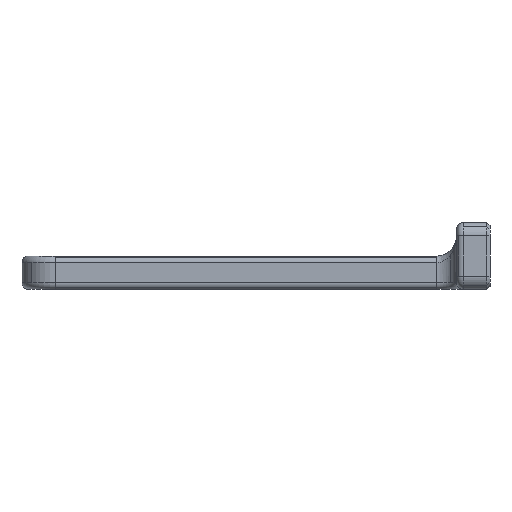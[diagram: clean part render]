
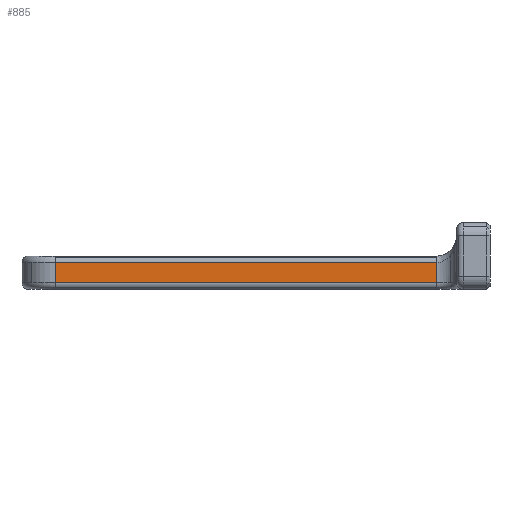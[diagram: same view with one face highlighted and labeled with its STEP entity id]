
A CAD part, front view. The second image highlights one B-rep face of the part: STEP entity #885.
In plain terms, the highlighted planar face has unit normal (0, -1, 0).
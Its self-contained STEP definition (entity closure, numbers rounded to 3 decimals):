
#885=ADVANCED_FACE('',(#2239),#2240,.T.);
#2239=FACE_OUTER_BOUND('',#3439,.T.);
#2240=PLANE('',#3440);
#3439=EDGE_LOOP('',(#8418,#8419,#8420,#8421));
#3440=AXIS2_PLACEMENT_3D('',#8422,#8423,#8424);
#8418=ORIENTED_EDGE('',*,*,#8792,.F.);
#8419=ORIENTED_EDGE('',*,*,#10156,.F.);
#8420=ORIENTED_EDGE('',*,*,#10157,.F.);
#8421=ORIENTED_EDGE('',*,*,#10154,.F.);
#8422=CARTESIAN_POINT('',(-130.034,-147.5,-6.0));
#8423=DIRECTION('',(0.0,-1.0,0.0));
#8424=DIRECTION('',(0.0,0.0,-1.0));
#8792=EDGE_CURVE('',#10465,#10467,#10468,.T.);
#10154=EDGE_CURVE('',#10467,#12702,#12703,.T.);
#10156=EDGE_CURVE('',#12705,#10465,#12706,.T.);
#10157=EDGE_CURVE('',#12702,#12705,#12707,.T.);
#10465=VERTEX_POINT('',#12866);
#10467=VERTEX_POINT('',#12868);
#10468=LINE('',#12869,#12870);
#12702=VERTEX_POINT('',#15780);
#12703=LINE('',#15781,#15782);
#12705=VERTEX_POINT('',#15784);
#12706=LINE('',#15785,#15786);
#12707=LINE('',#15787,#15788);
#12866=CARTESIAN_POINT('',(-128.034,-147.5,-10.0));
#12868=CARTESIAN_POINT('',(-185.034,-147.5,-10.0));
#12869=CARTESIAN_POINT('',(-160.034,-147.5,-10.0));
#12870=VECTOR('',#15922,1.0);
#15780=CARTESIAN_POINT('',(-185.034,-147.5,-7.0));
#15781=CARTESIAN_POINT('',(-185.034,-147.5,-6.0));
#15782=VECTOR('',#18654,1.0);
#15784=CARTESIAN_POINT('',(-128.034,-147.5,-7.0));
#15785=CARTESIAN_POINT('',(-128.034,-147.5,-3.5));
#15786=VECTOR('',#18658,1.0);
#15787=CARTESIAN_POINT('',(-160.034,-147.5,-7.0));
#15788=VECTOR('',#18659,1.0);
#15922=DIRECTION('',(-1.0,0.0,0.0));
#18654=DIRECTION('',(0.0,0.0,1.0));
#18658=DIRECTION('',(-0.0,-0.0,-1.0));
#18659=DIRECTION('',(1.0,0.0,0.0));
